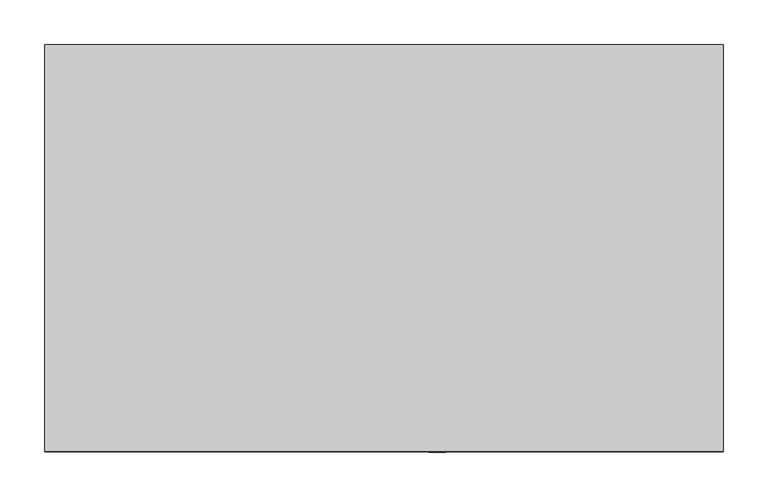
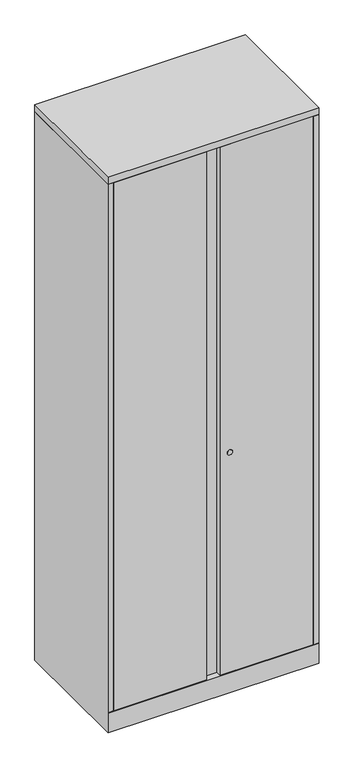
"""IFC4 building model written with IfcOpenShell, lengths in millimetres: furniture geometry, Steelcase - Universal Storage - Cabinet - Storage - 66H-84H - Flush Steel : 83 1/2H x 18D x 30W."""

from ifc_helpers import new_model, si_unit, point, frame, frame_2d, origin, place, context, project, spatial, polyline, circle_curve, trimmed, segment, composite_curve, outline, extrude, faceted_brep, source, transform, mapped, element, save


def furniture_ddbf1ba4(model_context):
    return source(origin(), model_context, "Body", "SolidModel", [
        extrude(outline(polyline([(762.0, 0.0), (762.0, -457.2), (0.0, -457.2), (0.0, 0.0), (762.0, 0.0)])), frame((0.0, 0.0, 2095.5), z_axis=(0.0, 0.0, 1.0), x_axis=(1.0, 0.0, 0.0)), (0.0, 0.0, 1.0), 25.4000484),
        extrude(outline(composite_curve([segment(trimmed(circle_curve(frame_2d((917.575, 440.8109835)), 9.7167829), [point((917.575, 450.5277664))], [point((917.575, 431.0942006))], False, "CARTESIAN"), True, "CONTINUOUS"), segment(trimmed(circle_curve(frame_2d((917.575, 440.8109835)), 9.7167829), [point((917.575, 431.0942006))], [point((917.575, 450.5277664))], False, "CARTESIAN"), True, "CONTINUOUS")], self_intersect=False)), frame((0.0, -457.8695275, 0.0), z_axis=(0.0, 1.0, 0.0), x_axis=(0.0, 0.0, 1.0)), (0.0, 0.0, 1.0), 0.6695275),
        extrude(outline(polyline([(20.8280006, -431.673866), (741.172, -431.673866), (741.172, -457.2), (405.13, -457.2), (405.13, -438.0238781), (356.87, -438.0238781), (356.87, -457.2), (20.8280006, -457.2), (20.8280006, -431.673866)])), frame((0.0, 0.0, 77.724), z_axis=(0.0, 0.0, 1.0), x_axis=(1.0, 0.0, 0.0)), (0.0, 0.0, 1.0), 2016.252),
        faceted_brep([(762.0, 0.0, 0.0), (762.0, -457.2, 0.0), (0.0, -457.2, 0.0), (0.0, 0.0, 0.0), (0.0, 0.0, 2093.976), (762.0, 0.0, 2093.976), (0.0, -457.2, 76.2), (0.0, -457.2, 77.724), (0.0, -457.2, 2093.976), (762.0, -457.2, 76.2), (762.0, -457.2, 2093.976), (762.0, -457.2, 77.724), (736.6000242, -25.4000008, 2093.976), (736.6000242, -430.1498674, 2093.976), (741.172, -430.1498674, 2093.976), (741.172, -431.6738781, 2093.976), (742.696, -431.6738781, 2093.976), (742.696, -457.2, 2093.976), (19.304, -457.2, 2093.976), (19.304, -431.673866, 2093.976), (20.8280006, -431.673866, 2093.976), (20.8280006, -430.1498674, 2093.976), (25.4000008, -430.1498674, 2093.976), (25.4000008, -25.4000008, 2093.976), (19.304, -457.2, 77.724), (19.304, -437.896, 77.724), (742.696, -457.2, 77.724), (742.696, -437.7698418, 77.724), (736.6000242, -25.4000008, 77.724), (736.6000242, -430.1498674, 77.724), (741.172, -430.1498674, 77.724), (741.172, -431.6738781, 77.724), (742.696, -431.6738781, 77.724), (19.304, -431.673866, 77.724), (20.8280006, -431.673866, 77.724), (20.8280006, -430.1498674, 77.724), (25.4000008, -430.1498674, 77.724), (25.4000008, -25.4000008, 77.724), (25.526134, -431.673866, 77.724), (736.6000242, -431.673866, 77.724)], [[[0, 1, 2, 3]], [[0, 3, 4, 5]], [[4, 3, 2, 6, 7, 8]], [[2, 1, 9, 6]], [[1, 0, 5, 10, 11, 9]], [[12, 13, 14, 15, 16, 17, 10, 5, 4, 8, 18, 19, 20, 21, 22, 23]], [[24, 7, 25]], [[11, 26, 27]], [[13, 12, 28, 29]], [[14, 13, 29, 30]], [[15, 14, 30, 31]], [[16, 15, 31, 32]], [[17, 16, 32, 27, 26]], [[10, 17, 26, 11]], [[18, 8, 7, 24]], [[19, 18, 24, 25, 33]], [[20, 19, 33, 34]], [[21, 20, 34, 35]], [[22, 21, 35, 36]], [[23, 22, 36, 37]], [[12, 23, 37, 28]], [[38, 39, 27, 32, 31, 30, 29, 28, 37, 36, 35, 34, 33, 25]], [[7, 6, 38, 25]], [[39, 38, 6, 9]], [[39, 9, 11, 27]]]),
    ])


if __name__ == "__main__":
    model = new_model("IFC4")
    model_context = context("Model", 3, world=origin())
    ifc_project = project(units=[si_unit("LENGTHUNIT", "METRE", prefix="MILLI")], contexts=[model_context])
    site = spatial("IfcSite", under=ifc_project)
    building = spatial("IfcBuilding", under=site)
    placement = place(None, origin())
    furniture_shape = furniture_ddbf1ba4(model_context)
    element("IfcFurniture", 1, ObjectType="Steelcase - Universal Storage - Cabinet - Storage - 66H-84H - Flush Steel : 83 1/2H x 18D x 30W", at=placement, inside=building, context=model_context, shape_type="MappedRepresentation", body=[
        mapped(furniture_shape, transform((0.0, 0.0, 0.0), x_axis=(1.0, 0.0, 0.0), y_axis=(0.0, 1.0, 0.0), z_axis=(0.0, 0.0, 1.0))),
    ])
    save(model, "model.ifc")
